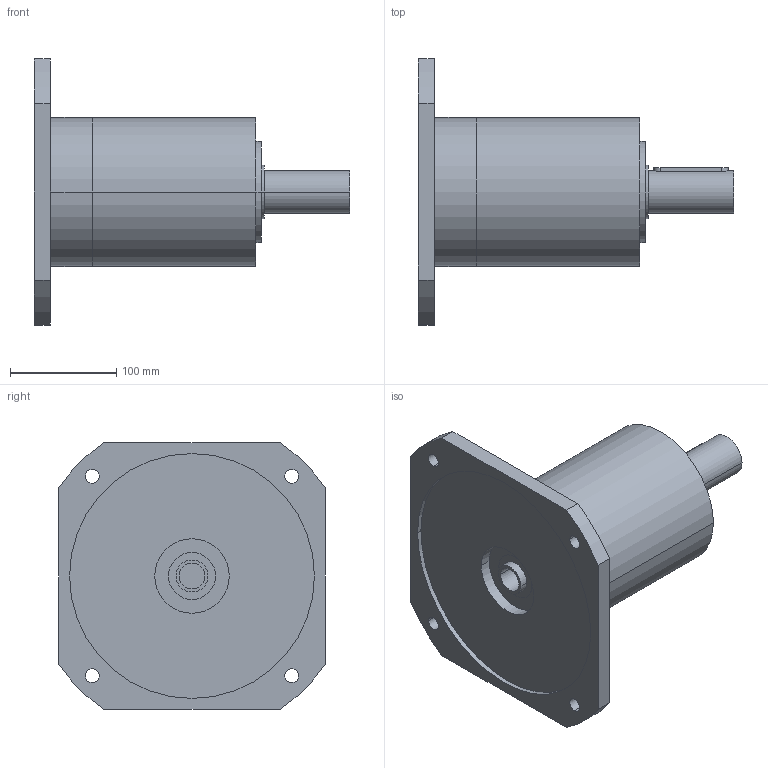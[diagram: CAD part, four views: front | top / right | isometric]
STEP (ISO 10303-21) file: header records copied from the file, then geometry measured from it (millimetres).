
FILE_DESCRIPTION(('CoCreate Modeling STEP Export'),'2;1');
FILE_NAME('GPR150_ig-9-12-16-20-28-35_40_B14_24_P07.stp','2014-08-19T17:03:33',(''),(''),'CoCreate Modeling STEP processor for AP214 (Solid Model)','CoCreate Modeling 16.00C 25-Feb-2009 (C) Parametric Technology GmbH','');
FILE_SCHEMA(('AUTOMOTIVE_DESIGN { 1 0 10303 214 1 1 1 1 }'));
Length unit declared in the file: millimetre
Products named in the file (2): GPR150_ig-9-12-16-20-28-35_40_B14_24_P07
Assembly tree (1 placements, depth 2):
  GPR150_ig-9-12-16-20-28-35_40_B14_24_P07
    GPR150_ig-9-12-16-20-28-35_40_B14_24_P07
Bounding box: 296 x 250 x 250 mm (x, y, z)
Volume: 3738814.7 mm3; surface area: 246990.9 mm2
Topology: 1 solids, 1 shells, 73 faces, 195 edges, 137 vertices
Faces by surface type: cylinder 44, plane 23, cone 6
Entity records: 2038 total; most frequent: CARTESIAN_POINT 396, ORIENTED_EDGE 386, DIRECTION 274, EDGE_CURVE 193, VERTEX_POINT 137, AXIS2_PLACEMENT_3D 103, EDGE_LOOP 96, FACE_OUTER_BOUND 73
